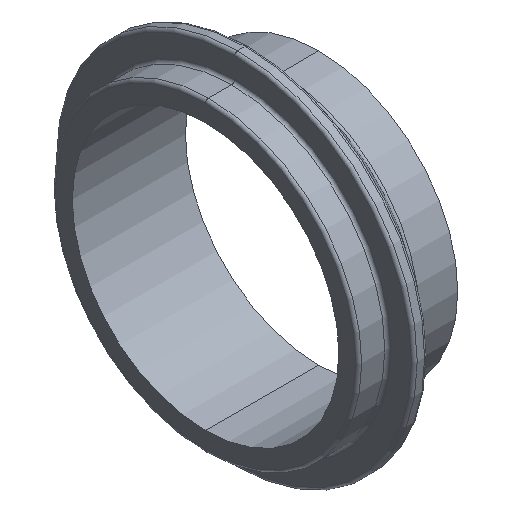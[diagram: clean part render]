
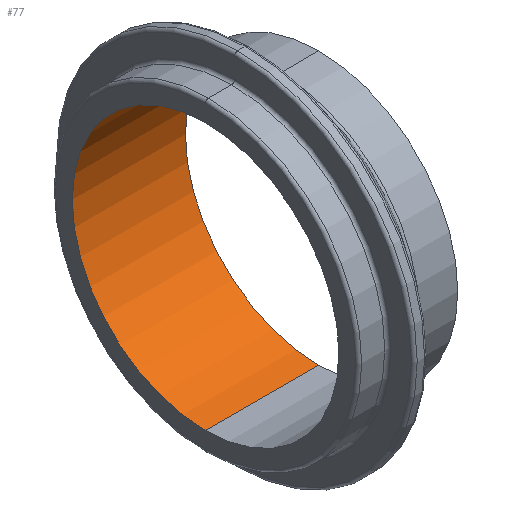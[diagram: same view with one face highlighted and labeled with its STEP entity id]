
A CAD part, isometric view. The second image highlights one B-rep face of the part: STEP entity #77.
In plain terms, the highlighted cylindrical face has radius 36.513 mm (diameter 73.025 mm), a partial arc.
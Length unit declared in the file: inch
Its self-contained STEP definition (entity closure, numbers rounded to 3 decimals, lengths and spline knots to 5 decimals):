
#1 = CARTESIAN_POINT ( 'NONE',  ( 0., 0., 1.4375 ) ) ;
#27 = AXIS2_PLACEMENT_3D ( 'NONE', #289, #40, #651 ) ;
#40 = DIRECTION ( 'NONE',  ( 1., 0., 0. ) ) ;
#59 = VERTEX_POINT ( 'NONE', #1 ) ;
#77 = ADVANCED_FACE ( 'NONE', ( #322 ), #461, .F. ) ;
#100 = VECTOR ( 'NONE', #432, 39.37008 ) ;
#129 = CARTESIAN_POINT ( 'NONE',  ( 0., 0., -1.4375 ) ) ;
#134 = CIRCLE ( 'NONE', #27, 1.4375 ) ;
#153 = DIRECTION ( 'NONE',  ( 1., 0., 0. ) ) ;
#184 = VERTEX_POINT ( 'NONE', #573 ) ;
#200 = EDGE_LOOP ( 'NONE', ( #598, #414, #404, #219 ) ) ;
#202 = VECTOR ( 'NONE', #599, 39.37008 ) ;
#219 = ORIENTED_EDGE ( 'NONE', *, *, #412, .T. ) ;
#235 = LINE ( 'NONE', #391, #202 ) ;
#240 = EDGE_CURVE ( 'NONE', #184, #506, #382, .T. ) ;
#250 = CARTESIAN_POINT ( 'NONE',  ( -1.22, 0., 1.4375 ) ) ;
#261 = DIRECTION ( 'NONE',  ( 0., 0., -1. ) ) ;
#275 = CARTESIAN_POINT ( 'NONE',  ( 0., 0., -1.4375 ) ) ;
#289 = CARTESIAN_POINT ( 'NONE',  ( 0., 0., 0. ) ) ;
#312 = AXIS2_PLACEMENT_3D ( 'NONE', #313, #153, #261 ) ;
#313 = CARTESIAN_POINT ( 'NONE',  ( 0., 0., 0. ) ) ;
#322 = FACE_OUTER_BOUND ( 'NONE', #200, .T. ) ;
#342 = EDGE_CURVE ( 'NONE', #184, #434, #453, .T. ) ;
#378 = DIRECTION ( 'NONE',  ( 0., 0., -1. ) ) ;
#382 = LINE ( 'NONE', #275, #100 ) ;
#391 = CARTESIAN_POINT ( 'NONE',  ( 0., 0., 1.4375 ) ) ;
#404 = ORIENTED_EDGE ( 'NONE', *, *, #240, .T. ) ;
#412 = EDGE_CURVE ( 'NONE', #506, #59, #134, .T. ) ;
#414 = ORIENTED_EDGE ( 'NONE', *, *, #342, .F. ) ;
#432 = DIRECTION ( 'NONE',  ( 1., 0., 0. ) ) ;
#434 = VERTEX_POINT ( 'NONE', #250 ) ;
#453 = CIRCLE ( 'NONE', #616, 1.4375 ) ;
#461 = CYLINDRICAL_SURFACE ( 'NONE', #312, 1.4375 ) ;
#506 = VERTEX_POINT ( 'NONE', #129 ) ;
#544 = CARTESIAN_POINT ( 'NONE',  ( -1.22, 0., 0. ) ) ;
#573 = CARTESIAN_POINT ( 'NONE',  ( -1.22, 0., -1.4375 ) ) ;
#577 = EDGE_CURVE ( 'NONE', #434, #59, #235, .T. ) ;
#598 = ORIENTED_EDGE ( 'NONE', *, *, #577, .F. ) ;
#599 = DIRECTION ( 'NONE',  ( 1., 0., 0. ) ) ;
#616 = AXIS2_PLACEMENT_3D ( 'NONE', #544, #630, #378 ) ;
#630 = DIRECTION ( 'NONE',  ( 1., 0., 0. ) ) ;
#651 = DIRECTION ( 'NONE',  ( 0., 0., -1. ) ) ;
